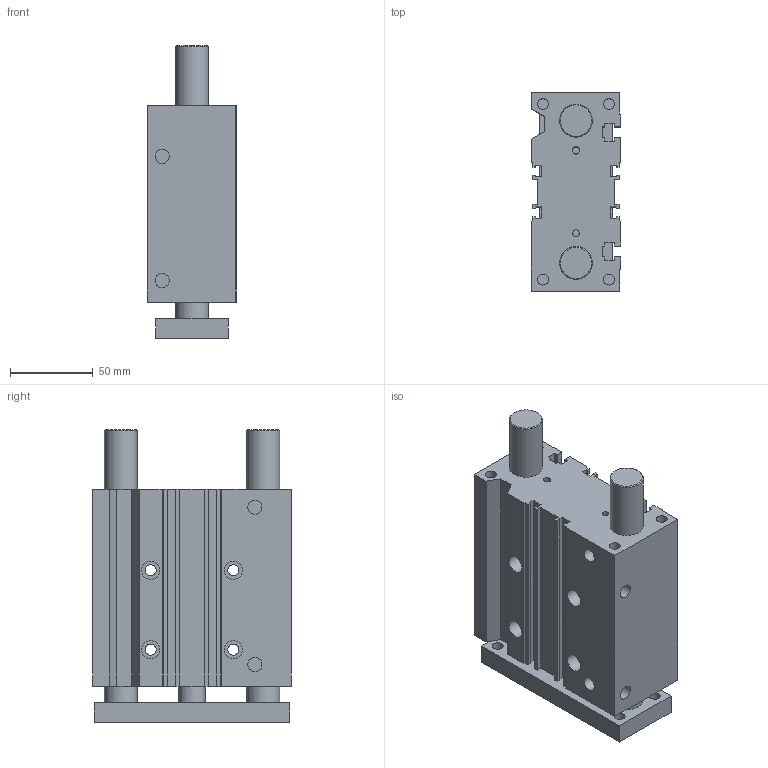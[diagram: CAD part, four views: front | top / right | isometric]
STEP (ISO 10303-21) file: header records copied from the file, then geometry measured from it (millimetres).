
FILE_DESCRIPTION((''),'2;1');
FILE_NAME('I:\Area Tecnica\Disegni\VARIE-3D\Componenti\6100\6100 Ø20-63\6100_##_###_#\6100400075B.stp','2012-01-11T09:04:32',('airolcr1'),(''),'Autodesk Inventor 2012','Autodesk Inventor 2012','');
FILE_SCHEMA(('AUTOMOTIVE_DESIGN { 1 0 10303 214 1 1 1 1 }'));
Length unit declared in the file: millimetre
Products named in the file (3): 6100400075B; CORPO Ø40 C75 B; PIASTRA Ø40 C75 B
Assembly tree (2 placements, depth 2):
  6100400075B
    CORPO Ø40 C75 B
    PIASTRA Ø40 C75 B
Bounding box: 54 x 120 x 177 mm (x, y, z)
Volume: 787921.6 mm3; surface area: 131919.4 mm2
Topology: 2 solids, 2 shells, 166 faces, 417 edges, 277 vertices
Faces by surface type: plane 126, cylinder 38, cone 2
Full cylindrical faces by diameter (mm): 4 x6, 6.647 x8, 6.65 x4, 8.566 x4, 11 x4, 16 x2, 20 x4
Entity records: 5013 total; most frequent: CARTESIAN_POINT 815, DIRECTION 798, ORIENTED_EDGE 750, EDGE_CURVE 375, VECTOR 294, LINE 294, VERTEX_POINT 269, AXIS2_PLACEMENT_3D 252
